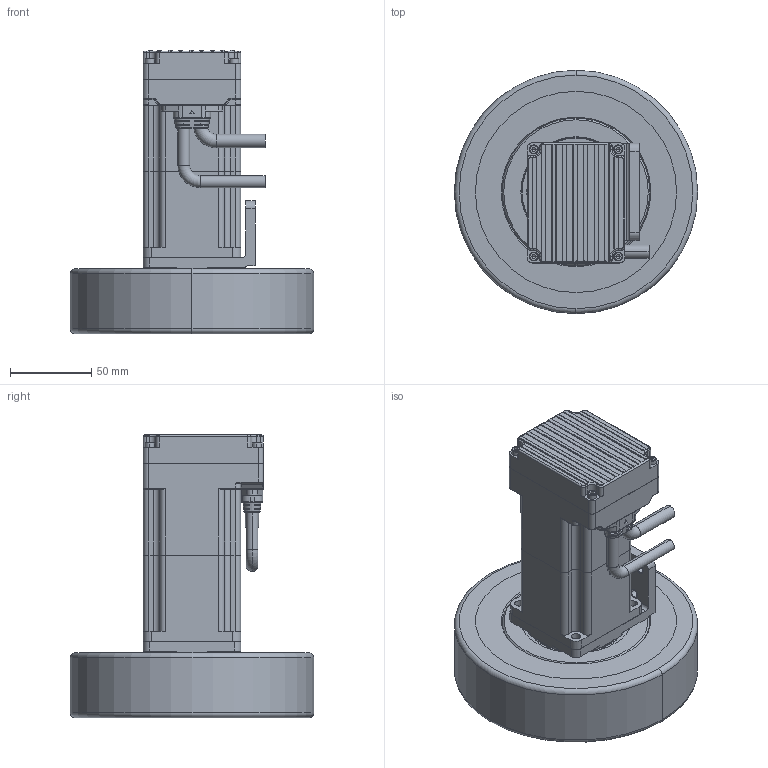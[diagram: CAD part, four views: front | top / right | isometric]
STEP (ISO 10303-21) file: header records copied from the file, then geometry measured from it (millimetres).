
FILE_DESCRIPTION (( 'STEP AP203' ), '1' );
FILE_NAME ('軞蚾.STEP', '2025-02-12T01:34:44', ( '' ), ( '' ), 'SwSTEP 2.0', 'SolidWorks 2023', '' );
FILE_SCHEMA (( 'CONFIG_CONTROL_DESIGN' ));
Products named in the file (1): 总装
Bounding box: 150 x 150 x 174.7 mm (x, y, z)
Surface area: 267715.1 mm2 (no closed solid volume)
Topology: 0 solids, 145 shells, 3228 faces, 8633 edges, 5183 vertices
Faces by surface type: cylinder 1223, plane 941, sphere 536, torus 265, cone 202, bspline 61
Entity records: 127678 total; most frequent: CARTESIAN_POINT 52529, DIRECTION 16163, ORIENTED_EDGE 15480, EDGE_CURVE 7794, AXIS2_PLACEMENT_3D 6795, VERTEX_POINT 4923, CIRCLE 3627, EDGE_LOOP 3511
